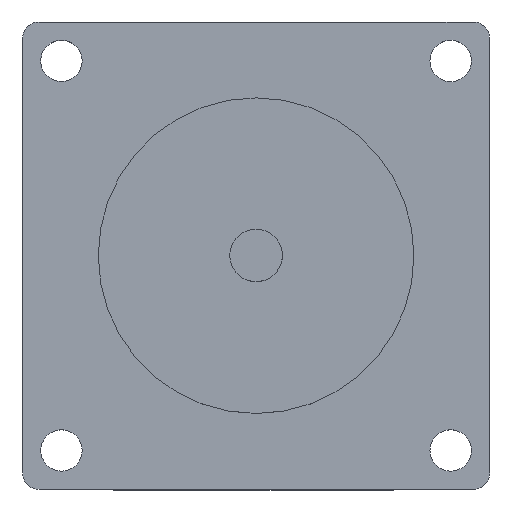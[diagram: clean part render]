
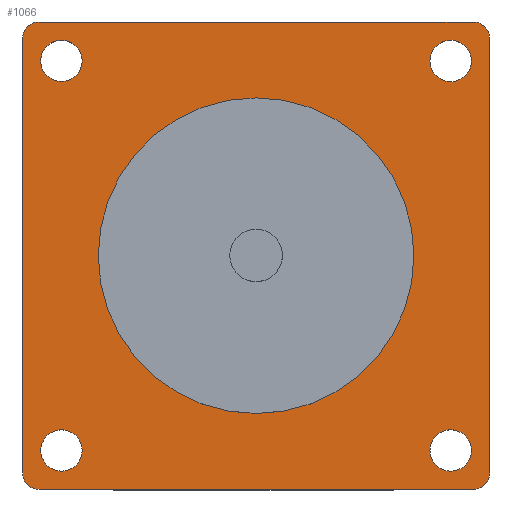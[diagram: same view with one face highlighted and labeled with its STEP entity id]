
A CAD part, top view. The second image highlights one B-rep face of the part: STEP entity #1066.
In plain terms, the highlighted planar face has unit normal (0, 0, 1).
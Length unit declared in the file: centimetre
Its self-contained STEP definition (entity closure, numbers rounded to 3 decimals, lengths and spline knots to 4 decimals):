
#320=VERTEX_POINT('',#3759);
#321=VERTEX_POINT('',#3761);
#332=VERTEX_POINT('',#3801);
#334=VERTEX_POINT('',#3806);
#336=VERTEX_POINT('',#3811);
#338=VERTEX_POINT('',#3816);
#342=VERTEX_POINT('',#3827);
#343=VERTEX_POINT('',#3831);
#346=VERTEX_POINT('',#3839);
#351=VERTEX_POINT('',#3853);
#354=VERTEX_POINT('',#3862);
#357=VERTEX_POINT('',#3869);
#358=VERTEX_POINT('',#3871);
#450=EDGE_CURVE('',#320,#321,#1883,.T.);
#470=EDGE_CURVE('',#332,#332,#1328,.T.);
#472=EDGE_CURVE('',#334,#334,#1330,.T.);
#474=EDGE_CURVE('',#336,#336,#1332,.T.);
#476=EDGE_CURVE('',#338,#338,#1334,.T.);
#480=EDGE_CURVE('',#342,#342,#1338,.T.);
#481=EDGE_CURVE('',#343,#320,#1339,.T.);
#486=EDGE_CURVE('',#346,#343,#1900,.T.);
#492=EDGE_CURVE('',#321,#351,#1344,.T.);
#497=EDGE_CURVE('',#351,#354,#1906,.T.);
#501=EDGE_CURVE('',#357,#346,#1346,.T.);
#502=EDGE_CURVE('',#358,#357,#1909,.T.);
#503=EDGE_CURVE('',#354,#358,#1347,.T.);
#753=ORIENTED_EDGE('',*,*,#470,.T.);
#754=ORIENTED_EDGE('',*,*,#472,.T.);
#755=ORIENTED_EDGE('',*,*,#474,.T.);
#756=ORIENTED_EDGE('',*,*,#476,.T.);
#757=ORIENTED_EDGE('',*,*,#480,.T.);
#758=ORIENTED_EDGE('',*,*,#481,.F.);
#759=ORIENTED_EDGE('',*,*,#486,.F.);
#760=ORIENTED_EDGE('',*,*,#501,.F.);
#761=ORIENTED_EDGE('',*,*,#502,.F.);
#762=ORIENTED_EDGE('',*,*,#503,.F.);
#763=ORIENTED_EDGE('',*,*,#497,.F.);
#764=ORIENTED_EDGE('',*,*,#492,.F.);
#765=ORIENTED_EDGE('',*,*,#450,.F.);
#907=EDGE_LOOP('',(#753));
#908=EDGE_LOOP('',(#754));
#909=EDGE_LOOP('',(#755));
#910=EDGE_LOOP('',(#756));
#911=EDGE_LOOP('',(#757));
#912=EDGE_LOOP('',(#758,#759,#760,#761,#762,#763,#764,#765));
#991=FACE_BOUND('',#907,.T.);
#992=FACE_BOUND('',#908,.T.);
#993=FACE_BOUND('',#909,.T.);
#994=FACE_BOUND('',#910,.T.);
#995=FACE_BOUND('',#911,.T.);
#996=FACE_BOUND('',#912,.T.);
#1066=ADVANCED_FACE('',(#991,#992,#993,#994,#995,#996),#2803,.T.);
#1328=CIRCLE('',#2580,0.25);
#1330=CIRCLE('',#2583,0.25);
#1332=CIRCLE('',#2586,0.25);
#1334=CIRCLE('',#2589,0.25);
#1338=CIRCLE('',#2596,1.905);
#1339=CIRCLE('',#2599,0.2);
#1344=CIRCLE('',#2607,0.2);
#1346=CIRCLE('',#2611,0.2);
#1347=CIRCLE('',#2612,0.2);
#1883=LINE('',#3760,#2738);
#1900=LINE('',#3840,#2755);
#1906=LINE('',#3861,#2761);
#1909=LINE('',#3870,#2764);
#2580=AXIS2_PLACEMENT_3D('',#3800,#3191,#3192);
#2583=AXIS2_PLACEMENT_3D('',#3805,#3197,#3198);
#2586=AXIS2_PLACEMENT_3D('',#3810,#3203,#3204);
#2589=AXIS2_PLACEMENT_3D('',#3815,#3209,#3210);
#2596=AXIS2_PLACEMENT_3D('',#3826,#3222,#3223);
#2599=AXIS2_PLACEMENT_3D('',#3830,#3227,#3228);
#2607=AXIS2_PLACEMENT_3D('',#3852,#3247,#3248);
#2610=AXIS2_PLACEMENT_3D('',#3867,#3258,$);
#2611=AXIS2_PLACEMENT_3D('',#3868,#3259,#3260);
#2612=AXIS2_PLACEMENT_3D('',#3872,#3262,#3263);
#2738=VECTOR('',#3152,1.);
#2755=VECTOR('',#3235,1.);
#2761=VECTOR('',#3255,1.);
#2764=VECTOR('',#3261,1.);
#2803=PLANE('',#2610);
#3152=DIRECTION('',(0.,-1.,0.));
#3191=DIRECTION('',(0.,0.,-1.));
#3192=DIRECTION('',(0.25,0.,0.));
#3197=DIRECTION('',(0.,0.,-1.));
#3198=DIRECTION('',(0.25,0.,0.));
#3203=DIRECTION('',(0.,0.,-1.));
#3204=DIRECTION('',(0.25,0.,0.));
#3209=DIRECTION('',(0.,0.,-1.));
#3210=DIRECTION('',(0.25,0.,0.));
#3222=DIRECTION('',(0.,0.,-1.));
#3223=DIRECTION('',(1.905,0.,0.));
#3227=DIRECTION('',(0.,0.,-1.));
#3228=DIRECTION('',(0.141,0.141,0.));
#3235=DIRECTION('',(1.,0.,0.));
#3247=DIRECTION('',(0.,0.,-1.));
#3248=DIRECTION('',(0.141,-0.141,0.));
#3255=DIRECTION('',(-1.,0.,0.));
#3258=DIRECTION('',(0.,0.,1.));
#3259=DIRECTION('',(0.,0.,-1.));
#3260=DIRECTION('',(-0.141,0.141,0.));
#3261=DIRECTION('',(0.,1.,0.));
#3262=DIRECTION('',(0.,0.,-1.));
#3263=DIRECTION('',(-0.141,-0.141,0.));
#3759=CARTESIAN_POINT('',(0.,5.442,4.1));
#3760=CARTESIAN_POINT('',(0.,0.,4.1));
#3761=CARTESIAN_POINT('',(0.,0.2,4.1));
#3800=CARTESIAN_POINT('',(-5.1682,0.47,4.1));
#3801=CARTESIAN_POINT('',(-4.9182,0.47,4.1));
#3805=CARTESIAN_POINT('',(-0.4699,0.4701,4.1));
#3806=CARTESIAN_POINT('',(-0.2199,0.4701,4.1));
#3810=CARTESIAN_POINT('',(-0.47,5.1718,4.1));
#3811=CARTESIAN_POINT('',(-0.22,5.1718,4.1));
#3815=CARTESIAN_POINT('',(-5.1686,5.1723,4.1));
#3816=CARTESIAN_POINT('',(-4.9186,5.1723,4.1));
#3826=CARTESIAN_POINT('',(-2.819,2.821,4.1));
#3827=CARTESIAN_POINT('',(-0.914,2.821,4.1));
#3830=CARTESIAN_POINT('',(-0.2,5.442,4.1));
#3831=CARTESIAN_POINT('',(-0.2,5.642,4.1));
#3839=CARTESIAN_POINT('',(-5.438,5.642,4.1));
#3840=CARTESIAN_POINT('',(0.,5.642,4.1));
#3852=CARTESIAN_POINT('',(-0.2,0.2,4.1));
#3853=CARTESIAN_POINT('',(-0.2,0.,4.1));
#3861=CARTESIAN_POINT('',(-5.638,0.,4.1));
#3862=CARTESIAN_POINT('',(-5.438,0.,4.1));
#3867=CARTESIAN_POINT('',(-2.819,2.821,4.1));
#3868=CARTESIAN_POINT('',(-5.438,5.442,4.1));
#3869=CARTESIAN_POINT('',(-5.638,5.442,4.1));
#3870=CARTESIAN_POINT('',(-5.638,5.642,4.1));
#3871=CARTESIAN_POINT('',(-5.638,0.2,4.1));
#3872=CARTESIAN_POINT('',(-5.438,0.2,4.1));
